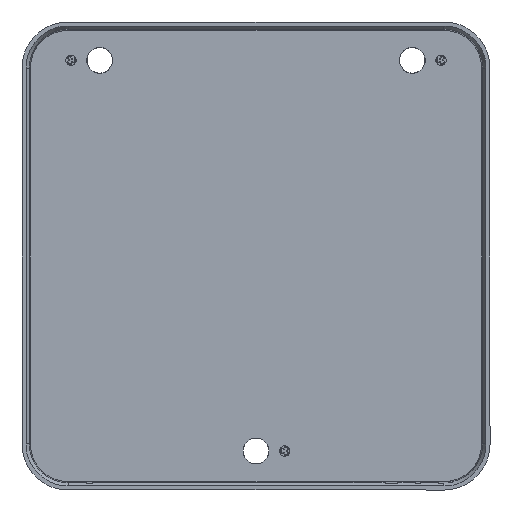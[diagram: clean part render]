
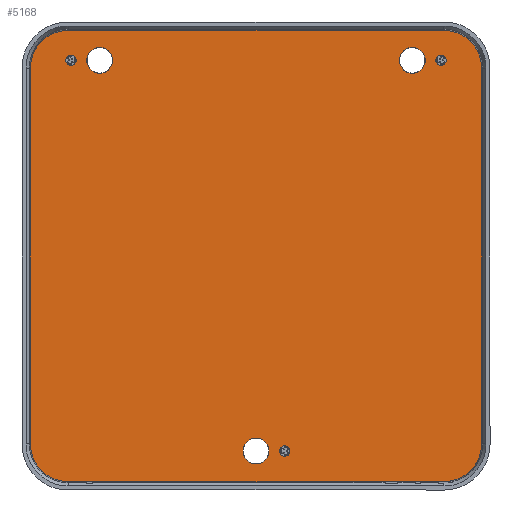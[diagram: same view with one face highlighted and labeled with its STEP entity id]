
A CAD part, front view. The second image highlights one B-rep face of the part: STEP entity #5168.
In plain terms, the highlighted planar face has unit normal (0, -1, 0).
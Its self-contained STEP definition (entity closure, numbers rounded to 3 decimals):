
#2275=LINE('',#37486,#3140);
#2279=LINE('',#37498,#3144);
#2283=LINE('',#37510,#3148);
#2287=LINE('',#37522,#3152);
#3140=VECTOR('',#20309,1.);
#3144=VECTOR('',#20321,1.);
#3148=VECTOR('',#20333,1.);
#3152=VECTOR('',#20345,1.);
#5168=ADVANCED_FACE('',(#5652,#5653,#5654,#5655,#5656,#5657,#5658),#5499,
 .F.);
#5499=PLANE('',#16864);
#5652=FACE_BOUND('',#6642,.T.);
#5653=FACE_BOUND('',#6643,.T.);
#5654=FACE_BOUND('',#6644,.T.);
#5655=FACE_BOUND('',#6645,.T.);
#5656=FACE_BOUND('',#6646,.T.);
#5657=FACE_BOUND('',#6647,.T.);
#5658=FACE_BOUND('',#6648,.T.);
#6642=EDGE_LOOP('',(#11186,#11187,#11188,#11189,#11190,#11191,#11192,#11193));
#6643=EDGE_LOOP('',(#11194));
#6644=EDGE_LOOP('',(#11195));
#6645=EDGE_LOOP('',(#11196));
#6646=EDGE_LOOP('',(#11197));
#6647=EDGE_LOOP('',(#11198));
#6648=EDGE_LOOP('',(#11199));
#11186=ORIENTED_EDGE('',*,*,#14942,.F.);
#11187=ORIENTED_EDGE('',*,*,#14973,.F.);
#11188=ORIENTED_EDGE('',*,*,#14960,.F.);
#11189=ORIENTED_EDGE('',*,*,#14957,.F.);
#11190=ORIENTED_EDGE('',*,*,#14954,.F.);
#11191=ORIENTED_EDGE('',*,*,#14951,.F.);
#11192=ORIENTED_EDGE('',*,*,#14948,.F.);
#11193=ORIENTED_EDGE('',*,*,#14945,.F.);
#11194=ORIENTED_EDGE('',*,*,#14970,.F.);
#11195=ORIENTED_EDGE('',*,*,#14968,.F.);
#11196=ORIENTED_EDGE('',*,*,#14966,.F.);
#11197=ORIENTED_EDGE('',*,*,#14964,.F.);
#11198=ORIENTED_EDGE('',*,*,#14962,.F.);
#11199=ORIENTED_EDGE('',*,*,#14974,.F.);
#12666=VERTEX_POINT('',#37485);
#12667=VERTEX_POINT('',#37487);
#12669=VERTEX_POINT('',#37493);
#12671=VERTEX_POINT('',#37499);
#12673=VERTEX_POINT('',#37505);
#12675=VERTEX_POINT('',#37511);
#12677=VERTEX_POINT('',#37517);
#12679=VERTEX_POINT('',#37523);
#12680=VERTEX_POINT('',#37527);
#12682=VERTEX_POINT('',#37532);
#12684=VERTEX_POINT('',#37537);
#12686=VERTEX_POINT('',#37542);
#12688=VERTEX_POINT('',#37547);
#12690=VERTEX_POINT('',#37555);
#14942=EDGE_CURVE('',#12666,#12667,#2275,.T.);
#14945=EDGE_CURVE('',#12667,#12669,#15512,.T.);
#14948=EDGE_CURVE('',#12669,#12671,#2279,.T.);
#14951=EDGE_CURVE('',#12671,#12673,#15514,.T.);
#14954=EDGE_CURVE('',#12673,#12675,#2283,.T.);
#14957=EDGE_CURVE('',#12675,#12677,#15516,.T.);
#14960=EDGE_CURVE('',#12677,#12679,#2287,.T.);
#14962=EDGE_CURVE('',#12680,#12680,#15517,.T.);
#14964=EDGE_CURVE('',#12682,#12682,#15519,.T.);
#14966=EDGE_CURVE('',#12684,#12684,#15521,.T.);
#14968=EDGE_CURVE('',#12686,#12686,#15523,.T.);
#14970=EDGE_CURVE('',#12688,#12688,#15525,.T.);
#14973=EDGE_CURVE('',#12679,#12666,#15528,.T.);
#14974=EDGE_CURVE('',#12690,#12690,#15529,.T.);
#15512=CIRCLE('',#16832,6.5);
#15514=CIRCLE('',#16836,6.5);
#15516=CIRCLE('',#16840,6.5);
#15517=CIRCLE('',#16843,0.9);
#15519=CIRCLE('',#16846,2.25);
#15521=CIRCLE('',#16849,2.25);
#15523=CIRCLE('',#16852,0.9);
#15525=CIRCLE('',#16855,0.9);
#15528=CIRCLE('',#16859,6.5);
#15529=CIRCLE('',#16861,2.25);
#16832=AXIS2_PLACEMENT_3D('',#37492,#20315,#20316);
#16836=AXIS2_PLACEMENT_3D('',#37504,#20327,#20328);
#16840=AXIS2_PLACEMENT_3D('',#37516,#20339,#20340);
#16843=AXIS2_PLACEMENT_3D('',#37526,#20349,#20350);
#16846=AXIS2_PLACEMENT_3D('',#37531,#20355,#20356);
#16849=AXIS2_PLACEMENT_3D('',#37536,#20361,#20362);
#16852=AXIS2_PLACEMENT_3D('',#37541,#20367,#20368);
#16855=AXIS2_PLACEMENT_3D('',#37546,#20373,#20374);
#16859=AXIS2_PLACEMENT_3D('',#37552,#20381,#20382);
#16861=AXIS2_PLACEMENT_3D('',#37554,#20385,#20386);
#16864=AXIS2_PLACEMENT_3D('',#37559,#20391,#20392);
#20309=DIRECTION('',(-1.,0.,0.));
#20315=DIRECTION('',(0.,1.,0.));
#20316=DIRECTION('',(0.,0.,-1.));
#20321=DIRECTION('',(0.,0.,1.));
#20327=DIRECTION('',(0.,1.,0.));
#20328=DIRECTION('',(-1.,0.,0.));
#20333=DIRECTION('',(1.,0.,0.));
#20339=DIRECTION('',(0.,1.,0.));
#20340=DIRECTION('',(0.,0.,1.));
#20345=DIRECTION('',(0.,0.,-1.));
#20349=DIRECTION('',(0.,-1.,0.));
#20350=DIRECTION('',(0.,0.,-1.));
#20355=DIRECTION('',(0.,-1.,0.));
#20356=DIRECTION('',(0.,0.,-1.));
#20361=DIRECTION('',(0.,-1.,0.));
#20362=DIRECTION('',(0.,0.,-1.));
#20367=DIRECTION('',(0.,-1.,0.));
#20368=DIRECTION('',(0.,0.,-1.));
#20373=DIRECTION('',(0.,-1.,0.));
#20374=DIRECTION('',(0.,0.,-1.));
#20381=DIRECTION('',(0.,1.,0.));
#20382=DIRECTION('',(1.,0.,0.));
#20385=DIRECTION('',(0.,-1.,0.));
#20386=DIRECTION('',(0.,0.,-1.));
#20391=DIRECTION('',(0.,1.,0.));
#20392=DIRECTION('',(0.,0.,1.));
#37485=CARTESIAN_POINT('',(32.75,0.3,-42.8));
#37486=CARTESIAN_POINT('',(32.75,0.3,-42.8));
#37487=CARTESIAN_POINT('',(-32.75,0.3,-42.8));
#37492=CARTESIAN_POINT('',(-32.75,0.3,-36.3));
#37493=CARTESIAN_POINT('',(-39.25,0.3,-36.3));
#37498=CARTESIAN_POINT('',(-39.25,0.3,-36.3));
#37499=CARTESIAN_POINT('',(-39.25,0.3,29.2));
#37504=CARTESIAN_POINT('',(-32.75,0.3,29.2));
#37505=CARTESIAN_POINT('',(-32.75,0.3,35.7));
#37510=CARTESIAN_POINT('',(-32.75,0.3,35.7));
#37511=CARTESIAN_POINT('',(32.75,0.3,35.7));
#37516=CARTESIAN_POINT('',(32.75,0.3,29.2));
#37517=CARTESIAN_POINT('',(39.25,0.3,29.2));
#37522=CARTESIAN_POINT('',(39.25,0.3,29.2));
#37523=CARTESIAN_POINT('',(39.25,0.3,-36.3));
#37526=CARTESIAN_POINT('',(5.,0.3,-37.5));
#37527=CARTESIAN_POINT('',(5.,0.3,-38.4));
#37531=CARTESIAN_POINT('',(-27.2,0.3,30.5));
#37532=CARTESIAN_POINT('',(-27.2,0.3,28.25));
#37536=CARTESIAN_POINT('',(27.2,0.3,30.5));
#37537=CARTESIAN_POINT('',(27.2,0.3,28.25));
#37541=CARTESIAN_POINT('',(-32.2,0.3,30.5));
#37542=CARTESIAN_POINT('',(-32.2,0.3,29.6));
#37546=CARTESIAN_POINT('',(32.2,0.3,30.5));
#37547=CARTESIAN_POINT('',(32.2,0.3,29.6));
#37552=CARTESIAN_POINT('',(32.75,0.3,-36.3));
#37554=CARTESIAN_POINT('',(0.,0.3,-37.5));
#37555=CARTESIAN_POINT('',(0.,0.3,-39.75));
#37559=CARTESIAN_POINT('',(-32.75,0.3,-36.3));
